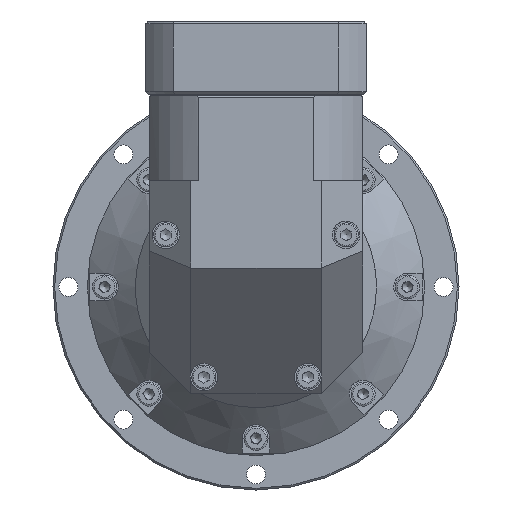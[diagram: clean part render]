
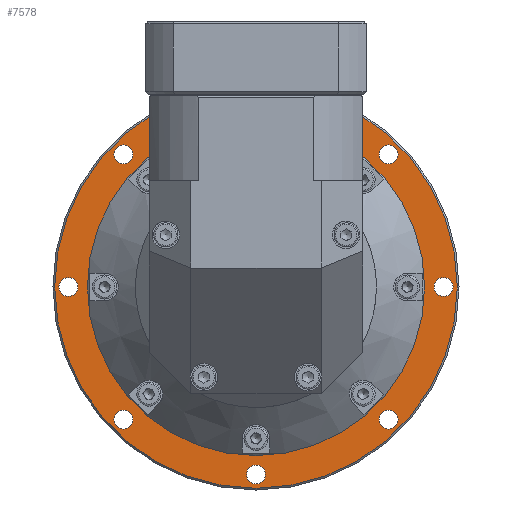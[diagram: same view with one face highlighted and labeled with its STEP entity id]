
A CAD part, front view. The second image highlights one B-rep face of the part: STEP entity #7578.
In plain terms, the highlighted planar face has unit normal (0, -1, 0).
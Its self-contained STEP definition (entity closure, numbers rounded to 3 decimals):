
#6524=CARTESIAN_POINT('',(-87.473,107.889,-12.25));
#6525=VERTEX_POINT('',#6524);
#6526=CARTESIAN_POINT('',(-28.973,107.889,-12.25));
#6527=DIRECTION('',(0.0,-1.0,0.0));
#6528=DIRECTION('',(1.0,0.0,0.0));
#6529=AXIS2_PLACEMENT_3D('',#6526,#6527,#6528);
#6530=CIRCLE('',#6529,58.5);
#6531=EDGE_CURVE('',#6525,#6525,#6530,.T.);
#6675=CARTESIAN_POINT('',(12.314,107.889,-50.787));
#6676=VERTEX_POINT('',#6675);
#6677=CARTESIAN_POINT('',(9.564,107.889,-50.787));
#6678=DIRECTION('',(0.0,-1.0,0.0));
#6679=DIRECTION('',(0.707,0.0,-0.707));
#6680=AXIS2_PLACEMENT_3D('',#6677,#6678,#6679);
#6681=CIRCLE('',#6680,2.75);
#6682=EDGE_CURVE('',#6676,#6676,#6681,.T.);
#6703=CARTESIAN_POINT('',(-26.223,107.889,-66.75));
#6704=VERTEX_POINT('',#6703);
#6705=CARTESIAN_POINT('',(-28.973,107.889,-66.75));
#6706=DIRECTION('',(0.0,-1.0,0.0));
#6707=DIRECTION('',(0.0,0.0,-1.0));
#6708=AXIS2_PLACEMENT_3D('',#6705,#6706,#6707);
#6709=CIRCLE('',#6708,2.75);
#6710=EDGE_CURVE('',#6704,#6704,#6709,.T.);
#6731=CARTESIAN_POINT('',(-64.76,107.889,-50.787));
#6732=VERTEX_POINT('',#6731);
#6733=CARTESIAN_POINT('',(-67.51,107.889,-50.787));
#6734=DIRECTION('',(0.0,-1.0,0.0));
#6735=DIRECTION('',(-0.707,0.0,-0.707));
#6736=AXIS2_PLACEMENT_3D('',#6733,#6734,#6735);
#6737=CIRCLE('',#6736,2.75);
#6738=EDGE_CURVE('',#6732,#6732,#6737,.T.);
#6759=CARTESIAN_POINT('',(-80.723,107.889,-12.25));
#6760=VERTEX_POINT('',#6759);
#6761=CARTESIAN_POINT('',(-83.473,107.889,-12.25));
#6762=DIRECTION('',(0.0,-1.0,0.0));
#6763=DIRECTION('',(-1.0,0.0,0.0));
#6764=AXIS2_PLACEMENT_3D('',#6761,#6762,#6763);
#6765=CIRCLE('',#6764,2.75);
#6766=EDGE_CURVE('',#6760,#6760,#6765,.T.);
#6787=CARTESIAN_POINT('',(-64.76,107.889,26.287));
#6788=VERTEX_POINT('',#6787);
#6789=CARTESIAN_POINT('',(-67.51,107.889,26.287));
#6790=DIRECTION('',(0.0,-1.0,0.0));
#6791=DIRECTION('',(-0.707,0.0,0.707));
#6792=AXIS2_PLACEMENT_3D('',#6789,#6790,#6791);
#6793=CIRCLE('',#6792,2.75);
#6794=EDGE_CURVE('',#6788,#6788,#6793,.T.);
#6815=CARTESIAN_POINT('',(-26.223,107.889,42.25));
#6816=VERTEX_POINT('',#6815);
#6817=CARTESIAN_POINT('',(-28.973,107.889,42.25));
#6818=DIRECTION('',(0.0,-1.0,0.0));
#6819=DIRECTION('',(0.0,0.0,1.0));
#6820=AXIS2_PLACEMENT_3D('',#6817,#6818,#6819);
#6821=CIRCLE('',#6820,2.75);
#6822=EDGE_CURVE('',#6816,#6816,#6821,.T.);
#6843=CARTESIAN_POINT('',(12.314,107.889,26.287));
#6844=VERTEX_POINT('',#6843);
#6845=CARTESIAN_POINT('',(9.564,107.889,26.287));
#6846=DIRECTION('',(0.0,-1.0,0.0));
#6847=DIRECTION('',(0.707,0.0,0.707));
#6848=AXIS2_PLACEMENT_3D('',#6845,#6846,#6847);
#6849=CIRCLE('',#6848,2.75);
#6850=EDGE_CURVE('',#6844,#6844,#6849,.T.);
#6871=CARTESIAN_POINT('',(28.277,107.889,-12.25));
#6872=VERTEX_POINT('',#6871);
#6873=CARTESIAN_POINT('',(25.527,107.889,-12.25));
#6874=DIRECTION('',(0.0,-1.0,0.0));
#6875=DIRECTION('',(1.0,0.0,0.0));
#6876=AXIS2_PLACEMENT_3D('',#6873,#6874,#6875);
#6877=CIRCLE('',#6876,2.75);
#6878=EDGE_CURVE('',#6872,#6872,#6877,.T.);
#7376=CARTESIAN_POINT('',(20.027,107.889,-12.25));
#7377=VERTEX_POINT('',#7376);
#7378=CARTESIAN_POINT('',(-28.973,107.889,-12.25));
#7379=DIRECTION('',(0.0,-1.0,0.0));
#7380=DIRECTION('',(1.0,0.0,0.0));
#7381=AXIS2_PLACEMENT_3D('',#7378,#7379,#7380);
#7382=CIRCLE('',#7381,49.);
#7383=EDGE_CURVE('',#7377,#7377,#7382,.T.);
#7543=CARTESIAN_POINT('',(30.027,107.889,-12.25));
#7544=DIRECTION('',(0.0,-1.0,0.0));
#7545=DIRECTION('',(0.0,0.0,-1.0));
#7546=AXIS2_PLACEMENT_3D('',#7543,#7544,#7545);
#7547=PLANE('',#7546);
#7548=ORIENTED_EDGE('',*,*,#6531,.T.);
#7549=EDGE_LOOP('',(#7548));
#7550=FACE_OUTER_BOUND('',#7549,.T.);
#7551=ORIENTED_EDGE('',*,*,#6682,.F.);
#7552=EDGE_LOOP('',(#7551));
#7553=FACE_BOUND('',#7552,.T.);
#7554=ORIENTED_EDGE('',*,*,#6710,.F.);
#7555=EDGE_LOOP('',(#7554));
#7556=FACE_BOUND('',#7555,.T.);
#7557=ORIENTED_EDGE('',*,*,#6738,.F.);
#7558=EDGE_LOOP('',(#7557));
#7559=FACE_BOUND('',#7558,.T.);
#7560=ORIENTED_EDGE('',*,*,#6766,.F.);
#7561=EDGE_LOOP('',(#7560));
#7562=FACE_BOUND('',#7561,.T.);
#7563=ORIENTED_EDGE('',*,*,#6794,.F.);
#7564=EDGE_LOOP('',(#7563));
#7565=FACE_BOUND('',#7564,.T.);
#7566=ORIENTED_EDGE('',*,*,#6822,.F.);
#7567=EDGE_LOOP('',(#7566));
#7568=FACE_BOUND('',#7567,.T.);
#7569=ORIENTED_EDGE('',*,*,#6850,.F.);
#7570=EDGE_LOOP('',(#7569));
#7571=FACE_BOUND('',#7570,.T.);
#7572=ORIENTED_EDGE('',*,*,#6878,.F.);
#7573=EDGE_LOOP('',(#7572));
#7574=FACE_BOUND('',#7573,.T.);
#7575=ORIENTED_EDGE('',*,*,#7383,.F.);
#7576=EDGE_LOOP('',(#7575));
#7577=FACE_BOUND('',#7576,.T.);
#7578=ADVANCED_FACE('',(#7550,#7553,#7556,#7559,#7562,#7565,#7568,#7571,#7574,#7577),#7547,.T.);
